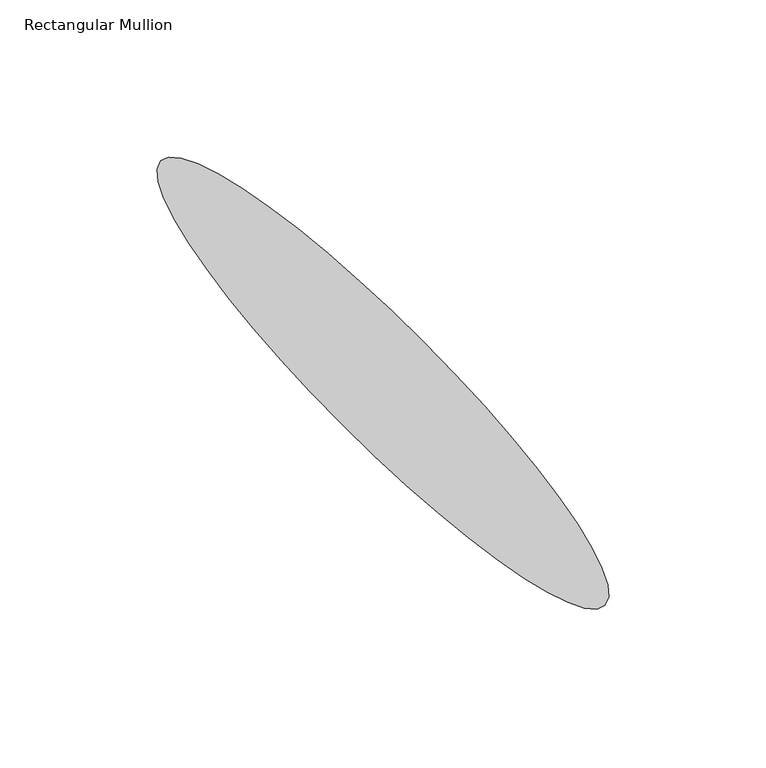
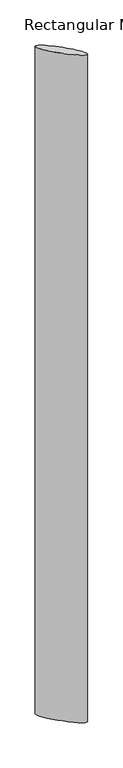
"""IFC4 building model written with IfcOpenShell, lengths in millimetres: member geometry, Rectangular Mullion : RSen_21_CWM_blade - 200 ellips - 45°_gen_duco projects."""

from ifc_helpers import new_model, si_unit, point, frame, origin, place, context, project, spatial, ellipse_curve, trimmed, source, transform, mapped, element, save
from ifc_brep_helpers import plane_surface, extruded_surface, advanced_brep


def rectangular_mullion_0c68277b(model_context):
    return source(origin(), model_context, "Body", "AdvancedBrep", [
        advanced_brep(
        [(70.7106781, 7.2893219, 0.0), (-70.7106781, 148.7106781, 0.0), (70.7106781, 7.2893219, -3000.0), (-70.7106781, 148.7106781, -3000.0)],
        [
            (0, 1, ellipse_curve(frame((0.0, 78.0, 0.0), z_axis=(0.0, 0.0, 1.0000000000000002), x_axis=(-0.7071067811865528, 0.7071067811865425, 0.0)), 100.0, 18.5)),
            (1, 0, ellipse_curve(frame((0.0, 78.0, 0.0), z_axis=(0.0, 0.0, 1.0000000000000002), x_axis=(-0.7071067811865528, 0.7071067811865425, 0.0)), 100.0, 18.5)),
            (2, 3, ellipse_curve(frame((0.0, 78.0, -3000.0), z_axis=(0.0, 0.0, -1.0000000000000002), x_axis=(-0.7071067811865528, 0.7071067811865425, 0.0)), 100.0, 18.5)),
            (3, 2, ellipse_curve(frame((0.0, 78.0, -3000.0), z_axis=(0.0, 0.0, -1.0000000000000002), x_axis=(-0.7071067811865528, 0.7071067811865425, 0.0)), 100.0, 18.5)),
            (0, 2),
            (3, 1),
        ],
        [
            plane_surface(frame((0.0, -164.6659218, 0.0), z_axis=(0.0, 0.0, 1.0), x_axis=(-1.0, 0.0, 0.0))),
            plane_surface(frame((0.0, -164.6659218, -3000.0), z_axis=(0.0, 0.0, -1.0), x_axis=(-1.0, 0.0, 0.0))),
            extruded_surface(trimmed(ellipse_curve(frame((0.0, 78.0, -3000.0), z_axis=(0.0, 0.0, 1.0000000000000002), x_axis=(-0.7071067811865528, 0.7071067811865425, 0.0)), 100.0, 18.5), [point((70.7106781, 7.2893219, -3000.0))], [point((-70.7106781, 148.7106781, -3000.0))], True, "CARTESIAN"), (0.0, 0.0, 3000.0), 3000.0),
            extruded_surface(trimmed(ellipse_curve(frame((0.0, 78.0, -3000.0), z_axis=(0.0, 0.0, 1.0000000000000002), x_axis=(-0.7071067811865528, 0.7071067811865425, 0.0)), 100.0, 18.5), [point((-70.7106781, 148.7106781, -3000.0))], [point((70.7106781, 7.2893219, -3000.0))], True, "CARTESIAN"), (0.0, 0.0, 3000.0), 3000.0),
        ],
        [
            (0, [[1, 2]]),
            (1, [[3, 4]]),
            (2, [[-1, 5, -4, 6]]),
            (3, [[-2, -6, -3, -5]]),
        ],
    ),
    ])


if __name__ == "__main__":
    model = new_model("IFC4")
    model_context = context("Model", 3, world=origin())
    ifc_project = project(units=[si_unit("LENGTHUNIT", "METRE", prefix="MILLI")], contexts=[model_context])
    site = spatial("IfcSite", under=ifc_project)
    building = spatial("IfcBuilding", under=site)
    placement = place(None, origin())
    rectangular_mullion_shape = rectangular_mullion_0c68277b(model_context)
    element("IfcMember", 1, ObjectType="Rectangular Mullion : RSen_21_CWM_blade - 200 ellips - 45°_gen_duco projects", at=placement, inside=building, context=model_context, shape_type="MappedRepresentation", body=[
        mapped(rectangular_mullion_shape, transform((0.0, 0.0, 0.0), x_axis=(1.0, 0.0, 0.0), y_axis=(0.0, 1.0, 0.0), z_axis=(0.0, 0.0, 1.0))),
    ])
    save(model, "model.ifc")
